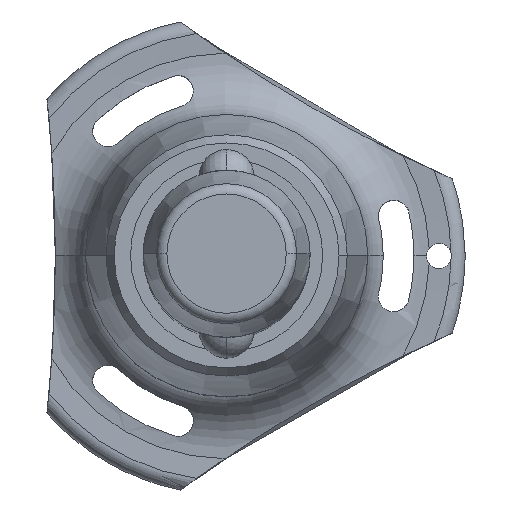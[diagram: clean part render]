
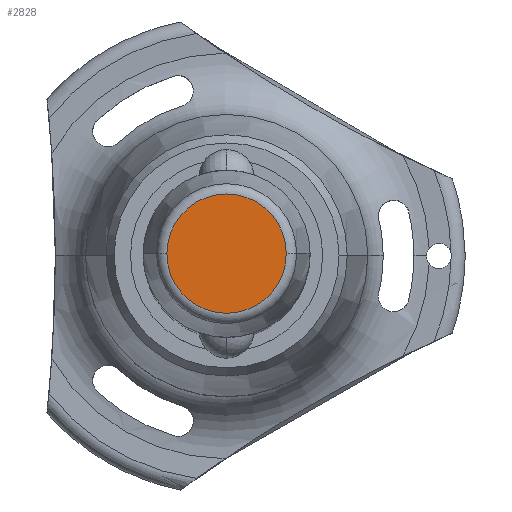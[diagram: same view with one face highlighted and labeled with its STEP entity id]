
A CAD part, top view. The second image highlights one B-rep face of the part: STEP entity #2828.
In plain terms, the highlighted planar face has unit normal (0, 0, 1).
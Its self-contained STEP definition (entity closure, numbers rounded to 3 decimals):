
#23 = DIRECTION ( 'NONE',  ( 1., 0., 0. ) ) ;
#74 = CARTESIAN_POINT ( 'NONE',  ( 0., 0., 20.5 ) ) ;
#101 = VERTEX_POINT ( 'NONE', #904 ) ;
#147 = VERTEX_POINT ( 'NONE', #1887 ) ;
#536 = DIRECTION ( 'NONE',  ( 1., 0., 0. ) ) ;
#617 = AXIS2_PLACEMENT_3D ( 'NONE', #74, #990, #536 ) ;
#738 = PLANE ( 'NONE',  #2261 ) ;
#904 = CARTESIAN_POINT ( 'NONE',  ( -7.144, 0., 20.5 ) ) ;
#933 = CIRCLE ( 'NONE', #617, 7.144 ) ;
#975 = DIRECTION ( 'NONE',  ( 0., 0., 1. ) ) ;
#990 = DIRECTION ( 'NONE',  ( 0., 0., 1. ) ) ;
#1007 = EDGE_LOOP ( 'NONE', ( #2709, #1139 ) ) ;
#1139 = ORIENTED_EDGE ( 'NONE', *, *, #1365, .T. ) ;
#1329 = CARTESIAN_POINT ( 'NONE',  ( 0., 0., 20.5 ) ) ;
#1365 = EDGE_CURVE ( 'NONE', #101, #147, #933, .T. ) ;
#1610 = DIRECTION ( 'NONE',  ( 1., 0., 0. ) ) ;
#1681 = EDGE_CURVE ( 'NONE', #147, #101, #2644, .T. ) ;
#1805 = CARTESIAN_POINT ( 'NONE',  ( 0., 0., 20.5 ) ) ;
#1887 = CARTESIAN_POINT ( 'NONE',  ( 7.144, 0., 20.5 ) ) ;
#2211 = DIRECTION ( 'NONE',  ( 0., 0., 1. ) ) ;
#2261 = AXIS2_PLACEMENT_3D ( 'NONE', #1805, #975, #1610 ) ;
#2376 = AXIS2_PLACEMENT_3D ( 'NONE', #1329, #2211, #23 ) ;
#2644 = CIRCLE ( 'NONE', #2376, 7.144 ) ;
#2709 = ORIENTED_EDGE ( 'NONE', *, *, #1681, .T. ) ;
#2724 = FACE_OUTER_BOUND ( 'NONE', #1007, .T. ) ;
#2828 = ADVANCED_FACE ( 'NONE', ( #2724 ), #738, .T. ) ;
